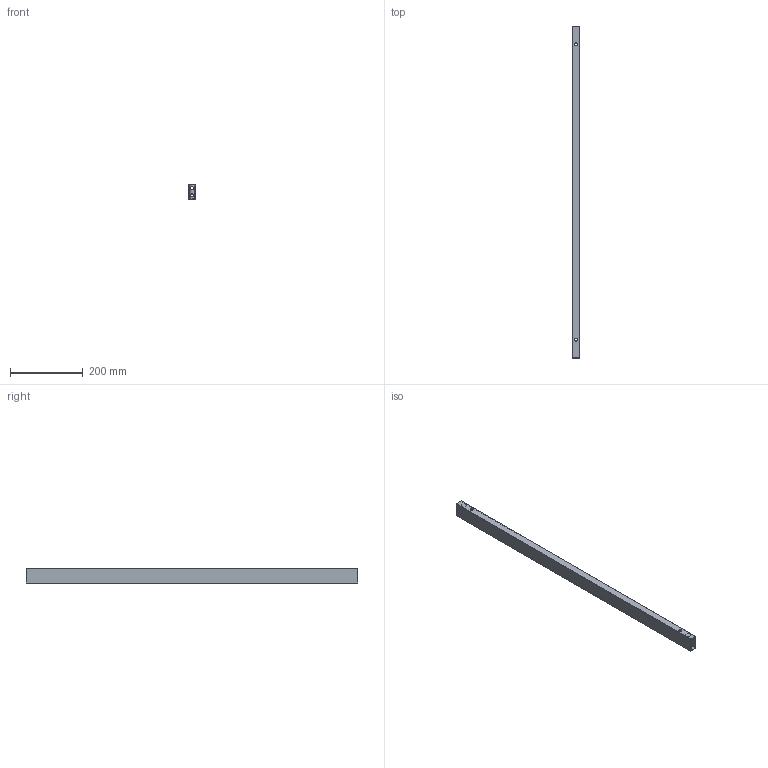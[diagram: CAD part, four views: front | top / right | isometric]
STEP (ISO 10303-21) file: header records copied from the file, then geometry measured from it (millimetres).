
FILE_DESCRIPTION( ( 'STEP AP214' ), '1' );
FILE_NAME( 'D:/Yug/2021/Delta/desk_and_office_organisation/QC/46011.stp', '2021-01-22T12:16:22', ( '' ), ( '' ), ' ', 'PARTsolutions', ' ' );
FILE_SCHEMA( ( 'AUTOMOTIVE_DESIGN { 1 0 10303 214 1 1 1 1 }' ) );
Length unit declared in the file: millimetre
Products named in the file (1): _46011
Bounding box: 20 x 910 x 41.5 mm (x, y, z)
Volume: 165073.3 mm3; surface area: 211293.7 mm2
Topology: 1 solids, 1 shells, 24 faces, 62 edges, 42 vertices
Faces by surface type: cylinder 12, plane 12
Full cylindrical faces by diameter (mm): 8 x4, 8.3 x4, 12.5 x2, 14.5 x2
Entity records: 1448 total; most frequent: CARTESIAN_POINT 665, DIRECTION 106, ORIENTED_EDGE 96, EDGE_LOOP 60, EDGE_CURVE 48, AXIS2_PLACEMENT_3D 41, VERTEX_POINT 40, FACE_OUTER_BOUND 36
